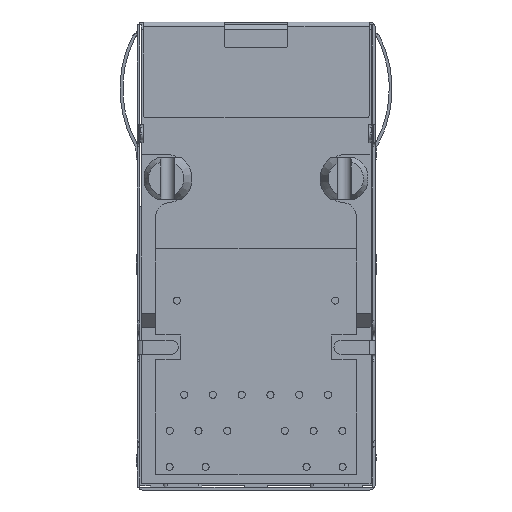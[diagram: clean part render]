
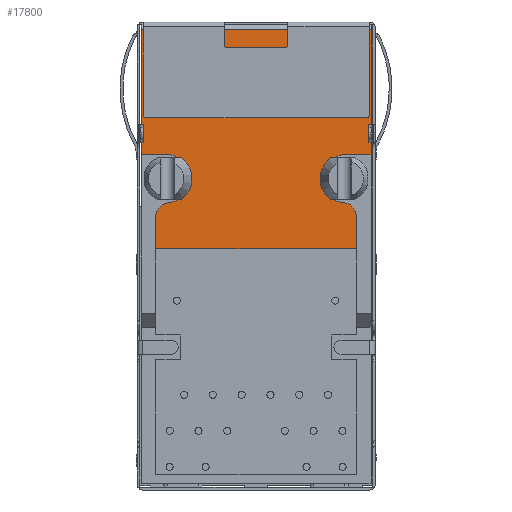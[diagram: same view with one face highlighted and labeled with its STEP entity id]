
A CAD part, front view. The second image highlights one B-rep face of the part: STEP entity #17800.
In plain terms, the highlighted planar face has unit normal (0, -1, 0).
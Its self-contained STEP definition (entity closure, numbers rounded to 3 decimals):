
#9=DIRECTION('',(0.,0.,-1.));
#10=VECTOR('',#9,8.831);
#11=CARTESIAN_POINT('',(-8.107,-6.575,15.855));
#12=LINE('',#11,#10);
#4888=DIRECTION('',(0.,0.,-1.));
#4889=VECTOR('',#4888,8.831);
#4890=CARTESIAN_POINT('',(8.107,-6.575,15.855));
#4891=LINE('',#4890,#4889);
#5788=DIRECTION('',(1.,0.,0.));
#5789=VECTOR('',#5788,1.782);
#5790=CARTESIAN_POINT('',(6.325,-6.575,7.024));
#5791=LINE('',#5790,#5789);
#5796=DIRECTION('',(1.,0.,0.));
#5797=VECTOR('',#5796,1.782);
#5798=CARTESIAN_POINT('',(-8.107,-6.575,7.024));
#5799=LINE('',#5798,#5797);
#5808=DIRECTION('',(-1.,0.,0.));
#5809=VECTOR('',#5808,16.214);
#5810=CARTESIAN_POINT('',(8.107,-6.575,15.855));
#5811=LINE('',#5810,#5809);
#5812=CARTESIAN_POINT('',(6.325,-6.575,5.324));
#5813=DIRECTION('',(0.,1.,0.));
#5814=DIRECTION('',(-0.091,0.,-0.996));
#5815=AXIS2_PLACEMENT_3D('',#5812,#5813,#5814);
#5817=CARTESIAN_POINT('',(6.08,-6.575,2.635));
#5818=DIRECTION('',(0.,-1.,0.));
#5819=DIRECTION('',(1.,0.,0.));
#5820=AXIS2_PLACEMENT_3D('',#5817,#5818,#5819);
#5822=DIRECTION('',(0.,0.,1.));
#5823=VECTOR('',#5822,2.26);
#5824=CARTESIAN_POINT('',(7.08,-6.575,0.375));
#5825=LINE('',#5824,#5823);
#5826=DIRECTION('',(0.,0.,-1.));
#5827=VECTOR('',#5826,2.26);
#5828=CARTESIAN_POINT('',(-7.08,-6.575,2.635));
#5829=LINE('',#5828,#5827);
#5830=CARTESIAN_POINT('',(-6.08,-6.575,2.635));
#5831=DIRECTION('',(0.,-1.,0.));
#5832=DIRECTION('',(-0.091,0.,0.996));
#5833=AXIS2_PLACEMENT_3D('',#5830,#5831,#5832);
#5835=CARTESIAN_POINT('',(-6.325,-6.575,5.324));
#5836=DIRECTION('',(0.,1.,0.));
#5837=DIRECTION('',(0.,0.,1.));
#5838=AXIS2_PLACEMENT_3D('',#5835,#5836,#5837);
#5844=DIRECTION('',(-1.,0.,0.));
#5845=VECTOR('',#5844,14.16);
#5846=CARTESIAN_POINT('',(7.08,-6.575,0.375));
#5847=LINE('',#5846,#5845);
#8307=CARTESIAN_POINT('',(-8.107,-6.575,7.024));
#8308=VERTEX_POINT('',#8307);
#8309=CARTESIAN_POINT('',(8.107,-6.575,7.024));
#8310=VERTEX_POINT('',#8309);
#8335=CARTESIAN_POINT('',(6.325,-6.575,7.024));
#8337=VERTEX_POINT('',#8335);
#8339=CARTESIAN_POINT('',(-6.325,-6.575,7.024));
#8341=VERTEX_POINT('',#8339);
#8343=CARTESIAN_POINT('',(7.08,-6.575,0.375));
#8344=CARTESIAN_POINT('',(-7.08,-6.575,0.375));
#8345=VERTEX_POINT('',#8343);
#8346=VERTEX_POINT('',#8344);
#8347=CARTESIAN_POINT('',(7.08,-6.575,2.635));
#8348=VERTEX_POINT('',#8347);
#8349=CARTESIAN_POINT('',(6.171,-6.575,3.631));
#8350=VERTEX_POINT('',#8349);
#8351=CARTESIAN_POINT('',(-6.171,-6.575,3.631));
#8352=VERTEX_POINT('',#8351);
#8353=CARTESIAN_POINT('',(-7.08,-6.575,2.635));
#8354=VERTEX_POINT('',#8353);
#10244=CARTESIAN_POINT('',(8.107,-6.575,15.855));
#10245=CARTESIAN_POINT('',(-8.107,-6.575,15.855));
#10246=VERTEX_POINT('',#10244);
#10247=VERTEX_POINT('',#10245);
#17778=CARTESIAN_POINT('',(-8.107,-6.575,16.175));
#17779=DIRECTION('',(0.,-1.,0.));
#17780=DIRECTION('',(0.,0.,-1.));
#17781=AXIS2_PLACEMENT_3D('',#17778,#17779,#17780);
#17782=PLANE('',#17781);
#17784=ORIENTED_EDGE('',*,*,#17783,.F.);
#17785=ORIENTED_EDGE('',*,*,#16590,.T.);
#17786=ORIENTED_EDGE('',*,*,#17731,.F.);
#17787=ORIENTED_EDGE('',*,*,#17759,.F.);
#17788=ORIENTED_EDGE('',*,*,#17772,.F.);
#17789=ORIENTED_EDGE('',*,*,#16749,.F.);
#17791=ORIENTED_EDGE('',*,*,#17790,.T.);
#17792=ORIENTED_EDGE('',*,*,#17564,.F.);
#17794=ORIENTED_EDGE('',*,*,#17793,.F.);
#17795=ORIENTED_EDGE('',*,*,#17717,.F.);
#17796=ORIENTED_EDGE('',*,*,#17746,.F.);
#17797=ORIENTED_EDGE('',*,*,#10716,.F.);
#17798=EDGE_LOOP('',(#17784,#17785,#17786,#17787,#17788,#17789,#17791,#17792,
#17794,#17795,#17796,#17797));
#17799=FACE_OUTER_BOUND('',#17798,.F.);
#17800=ADVANCED_FACE('',(#17799),#17782,.T.);
#5816=CIRCLE('',#5815,1.7);
#5821=CIRCLE('',#5820,1.);
#5834=CIRCLE('',#5833,1.);
#5839=CIRCLE('',#5838,1.7);
#10716=EDGE_CURVE('',#10247,#8308,#12,.T.);
#16590=EDGE_CURVE('',#10246,#8310,#4891,.T.);
#16749=EDGE_CURVE('',#8345,#8348,#5825,.T.);
#17564=EDGE_CURVE('',#8354,#8346,#5829,.T.);
#17717=EDGE_CURVE('',#8341,#8352,#5839,.T.);
#17731=EDGE_CURVE('',#8337,#8310,#5791,.T.);
#17746=EDGE_CURVE('',#8308,#8341,#5799,.T.);
#17759=EDGE_CURVE('',#8350,#8337,#5816,.T.);
#17772=EDGE_CURVE('',#8348,#8350,#5821,.T.);
#17783=EDGE_CURVE('',#10246,#10247,#5811,.T.);
#17790=EDGE_CURVE('',#8345,#8346,#5847,.T.);
#17793=EDGE_CURVE('',#8352,#8354,#5834,.T.);
